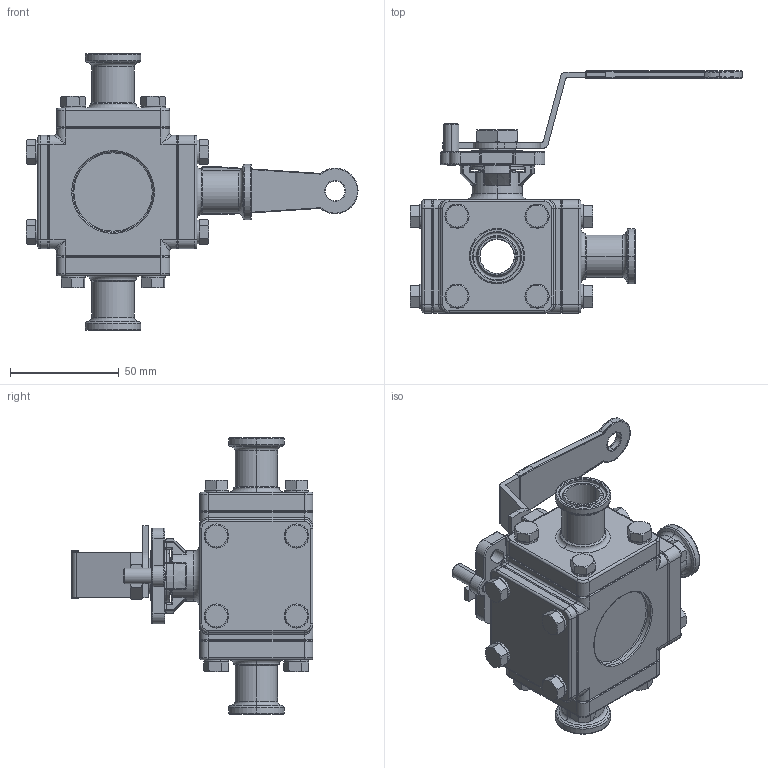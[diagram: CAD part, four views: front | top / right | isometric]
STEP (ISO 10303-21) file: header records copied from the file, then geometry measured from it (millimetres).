
FILE_DESCRIPTION (( 'STEP AP203' ), '1' );
FILE_NAME ('EG93CCC-6.75-T.STEP', '2019-07-02T02:25:11', ( '' ), ( '' ), 'SwSTEP 2.0', 'SolidWorks 2014', '' );
FILE_SCHEMA (( 'CONFIG_CONTROL_DESIGN' ));
Length unit declared in the file: millimetre
Products named in the file (24): 18.THINNER NUT0.5-.0.75; 21.PLAIN WASHER0.5-0.75; 13.STEM0.75; 22.SEAT-L-0.75; 15.SPRING WASHER0.5-0.75; 20.SEAT BACK0.75; 9.RING0.5-0.75; 10.BEVEL WASHER0.5-0.75; 16.BOLT0.75; 4.SEAT1-0.75; 1.3WAY-BODY0.75; 7.O-RING0.75; EG93CCC-6.75-T; 11.STOP PIN0.5-1.0; 5.GASKET0.75; 8.STEM PACKING0.75; 14.HANDLE0.5-0.75; 17.LOCKING TAB0.5-0.75; 3.3WAY-BALL-0.75-T; 2.3WAY-CAP-C-0.75; 6.THRUST WASHER0.75; 12.3WAY-NUT0.5-.0.75; 22.SEAT-R-0.75; 19.3WAY-CAP0.75
Assembly tree (58 placements, depth 2):
  EG93CCC-6.75-T
    1.3WAY-BODY0.75
    13.STEM0.75
    6.THRUST WASHER0.75
    7.O-RING0.75
    8.STEM PACKING0.75
    9.RING0.5-0.75
    10.BEVEL WASHER0.5-0.75  x2
    18.THINNER NUT0.5-.0.75
    17.LOCKING TAB0.5-0.75
    21.PLAIN WASHER0.5-0.75
    22.SEAT-L-0.75
    22.SEAT-R-0.75
    20.SEAT BACK0.75
    5.GASKET0.75  x2
    4.SEAT1-0.75  x2
    19.3WAY-CAP0.75
    2.3WAY-CAP-C-0.75  x3
    15.SPRING WASHER0.5-0.75  x16
    16.BOLT0.75  x16
    11.STOP PIN0.5-1.0
    12.3WAY-NUT0.5-.0.75
    14.HANDLE0.5-0.75
    3.3WAY-BALL-0.75-T
Bounding box: 152.5 x 111.13 x 127 mm (x, y, z)
Volume: 277449.8 mm3; surface area: 129551.3 mm2
Topology: 59 solids, 59 shells, 1539 faces, 3459 edges, 2031 vertices
Faces by surface type: cylinder 562, plane 401, cone 238, torus 231, sphere 57, bspline 50
Entity records: 34443 total; most frequent: CARTESIAN_POINT 8069, DIRECTION 5279, ORIENTED_EDGE 4518, EDGE_CURVE 2259, AXIS2_PLACEMENT_3D 2242, VERTEX_POINT 1335, CIRCLE 1237, EDGE_LOOP 1102
